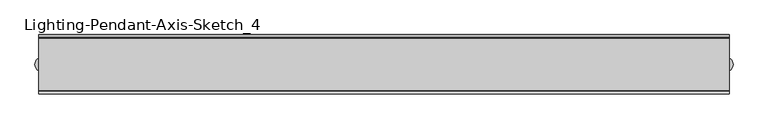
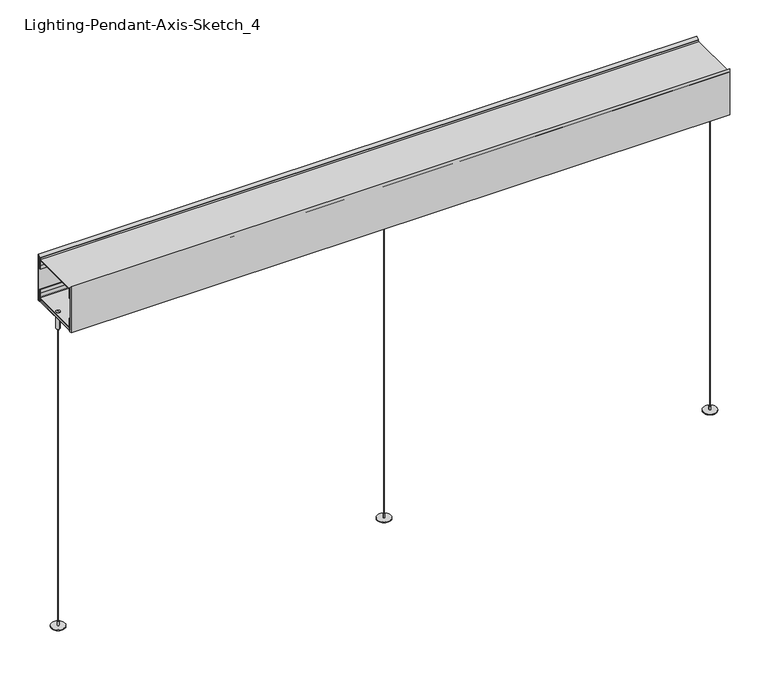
"""IFC4 building model written with IfcOpenShell, lengths in millimetres: light fixture geometry, Lighting-Pendant-Axis-Sketch_4 : SK4PDI-1400-1400-SO-SO-80-35."""

from ifc_helpers import new_model, si_unit, point, frame, frame_2d, origin, origin_with_axes, origin_2d, place, context, project, spatial, polyline, circle_curve, trimmed, segment, composite_curve, outline, extrude, source, transform, mapped, element, save
from ifc_brep_helpers import plane_surface, cylinder_surface, advanced_brep


def lighting_pendant_axis_sketch_4_b7173194(model_context):
    return source(origin(), model_context, "Body", "SolidModel", [
        extrude(outline(composite_curve([segment(trimmed(circle_curve(frame_2d((603.25, 0.0)), 0.396875), [point((602.853125, 0.0))], [point((603.646875, 0.0))], False, "CARTESIAN"), True, "CONTINUOUS"), segment(trimmed(circle_curve(frame_2d((603.25, 0.0)), 0.396875), [point((603.646875, 0.0))], [point((602.853125, 0.0))], False, "CARTESIAN"), True, "CONTINUOUS")], self_intersect=False)), frame((0.0, 0.0, 9.525), z_axis=(0.0, 0.0, 1.0), x_axis=(1.0, 0.0, 0.0)), (0.0, 0.0, 1.0), 600.075),
        advanced_brep(
        [(603.25, 1.2, 583.1008521), (603.25, -1.2, 583.1008521), (603.25, -2.95625, 583.1008521), (603.25, 2.95625, 583.1008521), (603.25, 1.2, 580.2508521), (603.25, -1.2, 580.2508521), (603.25, 0.0, 580.2508521), (603.25, 3.75, 616.0364681), (603.25, -3.75, 616.0364681), (603.25, 0.0, 616.0364681), (603.25, 3.75, 584.1008521), (603.25, -3.75, 584.1008521), (603.25, 2.95625, 584.1008521), (603.25, -2.95625, 584.1008521)],
        [
            (0, 1, circle_curve(frame((603.25, 0.0, 583.1008521), z_axis=(0.0, 0.0, 1.0), x_axis=(0.0, -1.0, 0.0)), 1.2)),
            (1, 2),
            (2, 3, circle_curve(frame((603.25, 0.0, 583.1008521), z_axis=(0.0, 0.0, -1.0), x_axis=(0.0, -1.0, 0.0)), 2.95625)),
            (3, 0),
            (1, 0, circle_curve(frame((603.25, 0.0, 583.1008521), z_axis=(0.0, 0.0, 1.0), x_axis=(0.0, -1.0, 0.0)), 1.2)),
            (3, 2, circle_curve(frame((603.25, 0.0, 583.1008521), z_axis=(0.0, 0.0, -1.0), x_axis=(0.0, -1.0, 0.0)), 2.95625)),
            (4, 5, circle_curve(frame((603.25, 0.0, 580.2508521), z_axis=(0.0, 0.0, 1.0), x_axis=(0.0, -1.0, 0.0)), 1.2)),
            (5, 1),
            (0, 4),
            (5, 4, circle_curve(frame((603.25, 0.0, 580.2508521), z_axis=(0.0, 0.0, 1.0), x_axis=(0.0, -1.0, 0.0)), 1.2)),
            (6, 5),
            (4, 6),
            (7, 8, circle_curve(frame((603.25, 0.0, 616.0364681), z_axis=(0.0, 0.0, 1.0), x_axis=(0.0, -1.0, 0.0)), 3.75)),
            (8, 9),
            (9, 7),
            (8, 7, circle_curve(frame((603.25, 0.0, 616.0364681), z_axis=(0.0, 0.0, 1.0), x_axis=(0.0, -1.0, 0.0)), 3.75)),
            (10, 11, circle_curve(frame((603.25, 0.0, 584.1008521), z_axis=(0.0, 0.0, 1.0), x_axis=(0.0, -1.0, 0.0)), 3.75)),
            (11, 8),
            (7, 10),
            (11, 10, circle_curve(frame((603.25, 0.0, 584.1008521), z_axis=(0.0, 0.0, 1.0), x_axis=(0.0, -1.0, 0.0)), 3.75)),
            (12, 13, circle_curve(frame((603.25, 0.0, 584.1008521), z_axis=(0.0, 0.0, 1.0), x_axis=(0.0, -1.0, 0.0)), 2.95625)),
            (13, 11),
            (10, 12),
            (13, 12, circle_curve(frame((603.25, 0.0, 584.1008521), z_axis=(0.0, 0.0, 1.0), x_axis=(0.0, -1.0, 0.0)), 2.95625)),
            (2, 13),
            (12, 3),
        ],
        [
            plane_surface(frame((603.25, 0.0, 583.1008521), z_axis=(0.0, 0.0, -1.0), x_axis=(0.0, -1.0, 0.0))),
            cylinder_surface(frame((603.25, 0.0, 2648.6067943), z_axis=(0.0, 0.0, -1.0), x_axis=(0.0, -1.0, 0.0)), 1.2),
            plane_surface(frame((603.25, 0.0, 580.2508521), z_axis=(0.0, 0.0, -1.0), x_axis=(0.0, -1.0, 0.0))),
            plane_surface(frame((603.25, 0.0, 616.0364681), z_axis=(0.0, 0.0, 1.0), x_axis=(0.0, -1.0, 0.0))),
            cylinder_surface(frame((603.25, 0.0, 2648.6067943), z_axis=(0.0, 0.0, -1.0), x_axis=(0.0, -1.0, 0.0)), 3.75),
            plane_surface(frame((603.25, 0.0, 584.1008521), z_axis=(0.0, 0.0, -1.0), x_axis=(0.0, -1.0, 0.0))),
            cylinder_surface(frame((603.25, 0.0, 2648.6067943), z_axis=(0.0, 0.0, -1.0), x_axis=(0.0, -1.0, 0.0)), 2.95625),
        ],
        [
            (0, [[1, 2, 3, 4]]),
            (0, [[5, -4, 6, -2]]),
            (1, [[7, 8, -1, 9]]),
            (1, [[10, -9, -5, -8]]),
            (2, [[11, -7, 12]]),
            (2, [[-12, -10, -11]]),
            (3, [[13, 14, 15]]),
            (3, [[16, -15, -14]]),
            (4, [[17, 18, -13, 19]]),
            (4, [[20, -19, -16, -18]]),
            (5, [[21, 22, -17, 23]]),
            (5, [[24, -23, -20, -22]]),
            (6, [[-3, 25, -21, 26]]),
            (6, [[-6, -26, -24, -25]]),
        ],
    ),
        extrude(outline(composite_curve([segment(trimmed(circle_curve(frame_2d((603.25, 0.0)), 12.7), [point((590.55, 0.0))], [point((615.95, 0.0))], False, "CARTESIAN"), True, "CONTINUOUS"), segment(trimmed(circle_curve(frame_2d((603.25, 0.0)), 12.7), [point((615.95, 0.0))], [point((590.55, 0.0))], False, "CARTESIAN"), True, "CONTINUOUS")], self_intersect=False)), origin_with_axes(), (0.0, 0.0, 1.0), 1.5875),
        extrude(outline(composite_curve([segment(trimmed(circle_curve(frame_2d((603.25, 0.0)), 1.5875), [point((601.6625, 0.0))], [point((604.8375, 0.0))], False, "CARTESIAN"), True, "CONTINUOUS"), segment(trimmed(circle_curve(frame_2d((603.25, 0.0)), 1.5875), [point((604.8375, 0.0))], [point((601.6625, 0.0))], False, "CARTESIAN"), True, "CONTINUOUS")], self_intersect=False)), frame((0.0, 0.0, 1.5875), z_axis=(0.0, 0.0, 1.0), x_axis=(1.0, 0.0, 0.0)), (0.0, 0.0, 1.0), 7.9375),
        extrude(outline(composite_curve([segment(trimmed(circle_curve(frame_2d((-603.25, 0.0)), 0.396875), [point((-603.646875, 0.0))], [point((-602.853125, 0.0))], False, "CARTESIAN"), True, "CONTINUOUS"), segment(trimmed(circle_curve(frame_2d((-603.25, 0.0)), 0.396875), [point((-602.853125, 0.0))], [point((-603.646875, 0.0))], False, "CARTESIAN"), True, "CONTINUOUS")], self_intersect=False)), frame((0.0, 0.0, 9.525), z_axis=(0.0, 0.0, 1.0), x_axis=(1.0, 0.0, 0.0)), (0.0, 0.0, 1.0), 600.075),
        advanced_brep(
        [(-603.25, 1.2, 583.1008521), (-603.25, -1.2, 583.1008521), (-603.25, -2.95625, 583.1008521), (-603.25, 2.95625, 583.1008521), (-603.25, 1.2, 580.2508521), (-603.25, -1.2, 580.2508521), (-603.25, 0.0, 580.2508521), (-603.25, 3.75, 616.0364681), (-603.25, -3.75, 616.0364681), (-603.25, 0.0, 616.0364681), (-603.25, 3.75, 584.1008521), (-603.25, -3.75, 584.1008521), (-603.25, 2.95625, 584.1008521), (-603.25, -2.95625, 584.1008521)],
        [
            (0, 1, circle_curve(frame((-603.25, 0.0, 583.1008521), z_axis=(0.0, 0.0, 1.0), x_axis=(0.0, -1.0, 0.0)), 1.2)),
            (1, 2),
            (2, 3, circle_curve(frame((-603.25, 0.0, 583.1008521), z_axis=(0.0, 0.0, -1.0), x_axis=(0.0, -1.0, 0.0)), 2.95625)),
            (3, 0),
            (1, 0, circle_curve(frame((-603.25, 0.0, 583.1008521), z_axis=(0.0, 0.0, 1.0), x_axis=(0.0, -1.0, 0.0)), 1.2)),
            (3, 2, circle_curve(frame((-603.25, 0.0, 583.1008521), z_axis=(0.0, 0.0, -1.0), x_axis=(0.0, -1.0, 0.0)), 2.95625)),
            (4, 5, circle_curve(frame((-603.25, 0.0, 580.2508521), z_axis=(0.0, 0.0, 1.0), x_axis=(0.0, -1.0, 0.0)), 1.2)),
            (5, 1),
            (0, 4),
            (5, 4, circle_curve(frame((-603.25, 0.0, 580.2508521), z_axis=(0.0, 0.0, 1.0), x_axis=(0.0, -1.0, 0.0)), 1.2)),
            (6, 5),
            (4, 6),
            (7, 8, circle_curve(frame((-603.25, 0.0, 616.0364681), z_axis=(0.0, 0.0, 1.0), x_axis=(0.0, -1.0, 0.0)), 3.75)),
            (8, 9),
            (9, 7),
            (8, 7, circle_curve(frame((-603.25, 0.0, 616.0364681), z_axis=(0.0, 0.0, 1.0), x_axis=(0.0, -1.0, 0.0)), 3.75)),
            (10, 11, circle_curve(frame((-603.25, 0.0, 584.1008521), z_axis=(0.0, 0.0, 1.0), x_axis=(0.0, -1.0, 0.0)), 3.75)),
            (11, 8),
            (7, 10),
            (11, 10, circle_curve(frame((-603.25, 0.0, 584.1008521), z_axis=(0.0, 0.0, 1.0), x_axis=(0.0, -1.0, 0.0)), 3.75)),
            (12, 13, circle_curve(frame((-603.25, 0.0, 584.1008521), z_axis=(0.0, 0.0, 1.0), x_axis=(0.0, -1.0, 0.0)), 2.95625)),
            (13, 11),
            (10, 12),
            (13, 12, circle_curve(frame((-603.25, 0.0, 584.1008521), z_axis=(0.0, 0.0, 1.0), x_axis=(0.0, -1.0, 0.0)), 2.95625)),
            (2, 13),
            (12, 3),
        ],
        [
            plane_surface(frame((-603.25, 0.0, 583.1008521), z_axis=(0.0, 0.0, -1.0), x_axis=(0.0, -1.0, 0.0))),
            cylinder_surface(frame((-603.25, 0.0, 2648.6067943), z_axis=(0.0, 0.0, -1.0), x_axis=(0.0, -1.0, 0.0)), 1.2),
            plane_surface(frame((-603.25, 0.0, 580.2508521), z_axis=(0.0, 0.0, -1.0), x_axis=(0.0, -1.0, 0.0))),
            plane_surface(frame((-603.25, 0.0, 616.0364681), z_axis=(0.0, 0.0, 1.0), x_axis=(0.0, -1.0, 0.0))),
            cylinder_surface(frame((-603.25, 0.0, 2648.6067943), z_axis=(0.0, 0.0, -1.0), x_axis=(0.0, -1.0, 0.0)), 3.75),
            plane_surface(frame((-603.25, 0.0, 584.1008521), z_axis=(0.0, 0.0, -1.0), x_axis=(0.0, -1.0, 0.0))),
            cylinder_surface(frame((-603.25, 0.0, 2648.6067943), z_axis=(0.0, 0.0, -1.0), x_axis=(0.0, -1.0, 0.0)), 2.95625),
        ],
        [
            (0, [[1, 2, 3, 4]]),
            (0, [[5, -4, 6, -2]]),
            (1, [[7, 8, -1, 9]]),
            (1, [[10, -9, -5, -8]]),
            (2, [[11, -7, 12]]),
            (2, [[-12, -10, -11]]),
            (3, [[13, 14, 15]]),
            (3, [[16, -15, -14]]),
            (4, [[17, 18, -13, 19]]),
            (4, [[20, -19, -16, -18]]),
            (5, [[21, 22, -17, 23]]),
            (5, [[24, -23, -20, -22]]),
            (6, [[-3, 25, -21, 26]]),
            (6, [[-6, -26, -24, -25]]),
        ],
    ),
        extrude(outline(composite_curve([segment(trimmed(circle_curve(frame_2d((-603.25, 0.0)), 12.7), [point((-615.95, 0.0))], [point((-590.55, 0.0))], False, "CARTESIAN"), True, "CONTINUOUS"), segment(trimmed(circle_curve(frame_2d((-603.25, 0.0)), 12.7), [point((-590.55, 0.0))], [point((-615.95, 0.0))], False, "CARTESIAN"), True, "CONTINUOUS")], self_intersect=False)), origin_with_axes(), (0.0, 0.0, 1.0), 1.5875),
        extrude(outline(composite_curve([segment(trimmed(circle_curve(frame_2d((-603.25, 0.0)), 1.5875), [point((-604.8375, 0.0))], [point((-601.6625, 0.0))], False, "CARTESIAN"), True, "CONTINUOUS"), segment(trimmed(circle_curve(frame_2d((-603.25, 0.0)), 1.5875), [point((-601.6625, 0.0))], [point((-604.8375, 0.0))], False, "CARTESIAN"), True, "CONTINUOUS")], self_intersect=False)), frame((0.0, 0.0, 1.5875), z_axis=(0.0, 0.0, 1.0), x_axis=(1.0, 0.0, 0.0)), (0.0, 0.0, 1.0), 7.9375),
        extrude(outline(composite_curve([segment(trimmed(circle_curve(origin_2d(), 0.396875), [point((-0.396875, 0.0))], [point((0.396875, 0.0))], False, "CARTESIAN"), True, "CONTINUOUS"), segment(trimmed(circle_curve(origin_2d(), 0.396875), [point((0.396875, 0.0))], [point((-0.396875, 0.0))], False, "CARTESIAN"), True, "CONTINUOUS")], self_intersect=False)), frame((0.0, 0.0, 9.525), z_axis=(0.0, 0.0, 1.0), x_axis=(1.0, 0.0, 0.0)), (0.0, 0.0, 1.0), 600.075),
        advanced_brep(
        [(0.0, 1.2, 583.1008521), (0.0, -1.2, 583.1008521), (0.0, -2.95625, 583.1008521), (0.0, 2.95625, 583.1008521), (0.0, 1.2, 580.2508521), (0.0, -1.2, 580.2508521), (0.0, 0.0, 580.2508521), (0.0, 3.75, 616.0364681), (0.0, -3.75, 616.0364681), (0.0, 0.0, 616.0364681), (0.0, 3.75, 584.1008521), (0.0, -3.75, 584.1008521), (0.0, 2.95625, 584.1008521), (0.0, -2.95625, 584.1008521)],
        [
            (0, 1, circle_curve(frame((0.0, 0.0, 583.1008521), z_axis=(0.0, 0.0, 1.0), x_axis=(0.0, -1.0, 0.0)), 1.2)),
            (1, 2),
            (2, 3, circle_curve(frame((0.0, 0.0, 583.1008521), z_axis=(0.0, 0.0, -1.0), x_axis=(0.0, -1.0, 0.0)), 2.95625)),
            (3, 0),
            (1, 0, circle_curve(frame((0.0, 0.0, 583.1008521), z_axis=(0.0, 0.0, 1.0), x_axis=(0.0, -1.0, 0.0)), 1.2)),
            (3, 2, circle_curve(frame((0.0, 0.0, 583.1008521), z_axis=(0.0, 0.0, -1.0), x_axis=(0.0, -1.0, 0.0)), 2.95625)),
            (4, 5, circle_curve(frame((0.0, 0.0, 580.2508521), z_axis=(0.0, 0.0, 1.0), x_axis=(0.0, -1.0, 0.0)), 1.2)),
            (5, 1),
            (0, 4),
            (5, 4, circle_curve(frame((0.0, 0.0, 580.2508521), z_axis=(0.0, 0.0, 1.0), x_axis=(0.0, -1.0, 0.0)), 1.2)),
            (6, 5),
            (4, 6),
            (7, 8, circle_curve(frame((0.0, 0.0, 616.0364681), z_axis=(0.0, 0.0, 1.0), x_axis=(0.0, -1.0, 0.0)), 3.75)),
            (8, 9),
            (9, 7),
            (8, 7, circle_curve(frame((0.0, 0.0, 616.0364681), z_axis=(0.0, 0.0, 1.0), x_axis=(0.0, -1.0, 0.0)), 3.75)),
            (10, 11, circle_curve(frame((0.0, 0.0, 584.1008521), z_axis=(0.0, 0.0, 1.0), x_axis=(0.0, -1.0, 0.0)), 3.75)),
            (11, 8),
            (7, 10),
            (11, 10, circle_curve(frame((0.0, 0.0, 584.1008521), z_axis=(0.0, 0.0, 1.0), x_axis=(0.0, -1.0, 0.0)), 3.75)),
            (12, 13, circle_curve(frame((0.0, 0.0, 584.1008521), z_axis=(0.0, 0.0, 1.0), x_axis=(0.0, -1.0, 0.0)), 2.95625)),
            (13, 11),
            (10, 12),
            (13, 12, circle_curve(frame((0.0, 0.0, 584.1008521), z_axis=(0.0, 0.0, 1.0), x_axis=(0.0, -1.0, 0.0)), 2.95625)),
            (2, 13),
            (12, 3),
        ],
        [
            plane_surface(frame((0.0, 0.0, 583.1008521), z_axis=(0.0, 0.0, -1.0), x_axis=(0.0, -1.0, 0.0))),
            cylinder_surface(frame((0.0, 0.0, 2648.6067943), z_axis=(0.0, 0.0, -1.0), x_axis=(0.0, -1.0, 0.0)), 1.2),
            plane_surface(frame((0.0, 0.0, 580.2508521), z_axis=(0.0, 0.0, -1.0), x_axis=(0.0, -1.0, 0.0))),
            plane_surface(frame((0.0, 0.0, 616.0364681), z_axis=(0.0, 0.0, 1.0), x_axis=(0.0, -1.0, 0.0))),
            cylinder_surface(frame((0.0, 0.0, 2648.6067943), z_axis=(0.0, 0.0, -1.0), x_axis=(0.0, -1.0, 0.0)), 3.75),
            plane_surface(frame((0.0, 0.0, 584.1008521), z_axis=(0.0, 0.0, -1.0), x_axis=(0.0, -1.0, 0.0))),
            cylinder_surface(frame((0.0, 0.0, 2648.6067943), z_axis=(0.0, 0.0, -1.0), x_axis=(0.0, -1.0, 0.0)), 2.95625),
        ],
        [
            (0, [[1, 2, 3, 4]]),
            (0, [[5, -4, 6, -2]]),
            (1, [[7, 8, -1, 9]]),
            (1, [[10, -9, -5, -8]]),
            (2, [[11, -7, 12]]),
            (2, [[-12, -10, -11]]),
            (3, [[13, 14, 15]]),
            (3, [[16, -15, -14]]),
            (4, [[17, 18, -13, 19]]),
            (4, [[20, -19, -16, -18]]),
            (5, [[21, 22, -17, 23]]),
            (5, [[24, -23, -20, -22]]),
            (6, [[-3, 25, -21, 26]]),
            (6, [[-6, -26, -24, -25]]),
        ],
    ),
        extrude(outline(composite_curve([segment(trimmed(circle_curve(origin_2d(), 12.7), [point((-12.7, 0.0))], [point((12.7, 0.0))], False, "CARTESIAN"), True, "CONTINUOUS"), segment(trimmed(circle_curve(origin_2d(), 12.7), [point((12.7, 0.0))], [point((-12.7, 0.0))], False, "CARTESIAN"), True, "CONTINUOUS")], self_intersect=False)), origin_with_axes(), (0.0, 0.0, 1.0), 1.5875),
        extrude(outline(composite_curve([segment(trimmed(circle_curve(origin_2d(), 1.5875), [point((-1.5875, 0.0))], [point((1.5875, 0.0))], False, "CARTESIAN"), True, "CONTINUOUS"), segment(trimmed(circle_curve(origin_2d(), 1.5875), [point((1.5875, 0.0))], [point((-1.5875, 0.0))], False, "CARTESIAN"), True, "CONTINUOUS")], self_intersect=False)), frame((0.0, 0.0, 1.5875), z_axis=(0.0, 0.0, 1.0), x_axis=(1.0, 0.0, 0.0)), (0.0, 0.0, 1.0), 7.9375),
        extrude(outline(polyline([(-609.6, -48.2599987), (-609.6, 48.2599977), (609.6, 48.2599977), (609.6, -48.2599987), (-609.6, -48.2599987)])), frame((0.0, 0.0, 689.9966516), z_axis=(0.0, 0.0, 1.0), x_axis=(1.0, 0.0, 0.0)), (0.0, 0.0, 1.0), 1.2700021),
        extrude(outline(polyline([(-609.6, -48.2599987), (-609.6, 48.2599977), (609.6, 48.2599977), (609.6, -48.2599987), (-609.6, -48.2599987)])), frame((0.0, 0.0, 614.5727648), z_axis=(0.0, 0.0, 1.0), x_axis=(1.0, 0.0, 0.0)), (0.0, 0.0, 1.0), 1.27),
        extrude(outline(polyline([(-52.387502, 608.1183333), (-52.387502, 698.5705614), (-47.9424983, 694.1255577), (-50.4824984, 694.1255577), (-50.4824984, 610.0233333), (-48.5749867, 610.0233333), (-48.5749867, 611.2933333), (-47.3074984, 611.2933333), (-47.3074984, 609.6312495), (-48.8649121, 608.1183333), (-52.387502, 608.1183333)])), frame((-609.6, 0.0, 0.0), z_axis=(1.0, 0.0, 0.0), x_axis=(0.0, 1.0, 0.0)), (0.0, 0.0, 1.0), 1219.2),
        extrude(outline(composite_curve([segment(polyline([(-47.7623797, 617.2181133), (-47.203689, 626.6227718), (-47.1663883, 632.7774986), (-46.1433321, 632.7774986), (-46.2138897, 626.1805556), (-46.8043106, 616.3008472), (-48.3048304, 616.3008472)]), True, "CONTINUOUS"), segment(trimmed(circle_curve(frame_2d((-48.3048304, 615.63155)), 0.6692972), [point((-48.3048304, 616.3008472))], [point((-48.9655543, 615.7383333))], True, "CARTESIAN"), True, "CONTINUOUS"), segment(polyline([(-48.9655543, 615.7383333), (-48.9062894, 614.1085157), (-46.5723819, 614.1933833), (-48.2952793, 612.3516667)]), True, "CONTINUOUS"), segment(trimmed(circle_curve(frame_2d((-48.7732449, 613.3920688)), 1.1449401), [point((-48.2952793, 612.3516667))], [point((-49.9180536, 613.3747222))], False, "CARTESIAN"), True, "CONTINUOUS"), segment(polyline([(-49.9180536, 613.3747222), (-49.9533335, 615.7030556)]), True, "CONTINUOUS"), segment(trimmed(circle_curve(frame_2d((-48.3340208, 615.7030556)), 1.6193127), [point((-49.9533335, 615.7030556))], [point((-47.7623797, 617.2181133))], False, "CARTESIAN"), True, "CONTINUOUS")], self_intersect=False)), frame((-609.6, 0.0, 0.0), z_axis=(1.0, 0.0, 0.0), x_axis=(0.0, 1.0, 0.0)), (0.0, 0.0, 1.0), 1219.2),
        extrude(outline(composite_curve([segment(polyline([(-47.1044268, 679.4782704), (-47.2795148, 688.3201765)]), True, "CONTINUOUS"), segment(trimmed(circle_curve(frame_2d((-47.6971346, 689.9992206)), 1.730201), [point((-47.2795148, 688.3201765))], [point((-49.4241668, 690.1038875))], False, "CARTESIAN"), True, "CONTINUOUS"), segment(polyline([(-49.4241668, 690.1038875), (-49.2830578, 692.4322236)]), True, "CONTINUOUS"), segment(trimmed(circle_curve(frame_2d((-48.1406669, 692.3629889)), 1.144487), [point((-49.2830578, 692.4322236))], [point((-47.6250008, 693.3847222))], False, "CARTESIAN"), True, "CONTINUOUS"), segment(polyline([(-47.6250008, 693.3847222), (-45.9802057, 691.5049613), (-48.3121579, 691.6345118), (-48.4283489, 689.5430339), (-46.305025, 689.3731705), (-46.1087781, 679.4627439), (-46.318589, 672.9236111), (-47.3427772, 672.9236111), (-47.1044268, 679.4782704)]), True, "CONTINUOUS")], self_intersect=False)), frame((-609.6, 0.0, 0.0), z_axis=(1.0, 0.0, 0.0), x_axis=(0.0, 1.0, 0.0)), (0.0, 0.0, 1.0), 1219.2),
        extrude(outline(polyline([(52.387502, 608.1183333), (48.8649121, 608.1183333), (47.3074984, 609.6312495), (47.3074984, 611.2933333), (48.5749867, 611.2933333), (48.5749867, 610.0233333), (50.4824984, 610.0233333), (50.4824984, 694.1255577), (47.9424983, 694.1255577), (52.387502, 698.5705614), (52.387502, 608.1183333)])), frame((-609.6, 0.0, 0.0), z_axis=(1.0, 0.0, 0.0), x_axis=(0.0, 1.0, 0.0)), (0.0, 0.0, 1.0), 1219.2),
        extrude(outline(composite_curve([segment(trimmed(circle_curve(frame_2d((48.3340208, 615.7030556)), 1.6193127), [point((47.7623797, 617.2181133))], [point((49.9533335, 615.7030556))], False, "CARTESIAN"), True, "CONTINUOUS"), segment(polyline([(49.9533335, 615.7030556), (49.9180536, 613.3747222)]), True, "CONTINUOUS"), segment(trimmed(circle_curve(frame_2d((48.7732449, 613.3920688)), 1.1449401), [point((49.9180536, 613.3747222))], [point((48.2952793, 612.3516667))], False, "CARTESIAN"), True, "CONTINUOUS"), segment(polyline([(48.2952793, 612.3516667), (46.6913645, 614.0661951), (48.9655543, 614.2021029), (48.9655543, 615.7383333)]), True, "CONTINUOUS"), segment(trimmed(circle_curve(frame_2d((48.3048304, 615.63155)), 0.6692972), [point((48.9655543, 615.7383333))], [point((48.3048304, 616.3008472))], True, "CARTESIAN"), True, "CONTINUOUS"), segment(polyline([(48.3048304, 616.3008472), (46.8043106, 616.3008472), (46.2138897, 626.1805556), (46.1433321, 632.7774986), (47.1663883, 632.7774986), (47.203689, 626.6227718), (47.7623797, 617.2181133)]), True, "CONTINUOUS")], self_intersect=False)), frame((-609.6, 0.0, 0.0), z_axis=(1.0, 0.0, 0.0), x_axis=(0.0, 1.0, 0.0)), (0.0, 0.0, 1.0), 1219.2),
        extrude(outline(composite_curve([segment(polyline([(47.1044268, 679.4782704), (47.3427772, 672.9236111), (46.318589, 672.9236111), (46.1087781, 679.4627439), (46.305025, 689.3731705), (48.4283489, 689.5430339), (48.3121579, 691.6345118), (45.9802057, 691.5049613), (47.6250008, 693.3847222)]), True, "CONTINUOUS"), segment(trimmed(circle_curve(frame_2d((48.1406669, 692.3629889)), 1.144487), [point((47.6250008, 693.3847222))], [point((49.2830578, 692.4322236))], False, "CARTESIAN"), True, "CONTINUOUS"), segment(polyline([(49.2830578, 692.4322236), (49.4241668, 690.1038875)]), True, "CONTINUOUS"), segment(trimmed(circle_curve(frame_2d((47.6971346, 689.9992206)), 1.730201), [point((49.4241668, 690.1038875))], [point((47.2795148, 688.3201765))], False, "CARTESIAN"), True, "CONTINUOUS"), segment(polyline([(47.2795148, 688.3201765), (47.1044268, 679.4782704)]), True, "CONTINUOUS")], self_intersect=False)), frame((-609.6, 0.0, 0.0), z_axis=(1.0, 0.0, 0.0), x_axis=(0.0, 1.0, 0.0)), (0.0, 0.0, 1.0), 1219.2),
        extrude(outline(polyline([(-609.6, -47.3074984), (-609.6, 47.3074984), (609.6, 47.3074984), (609.6, -47.3074984), (-609.6, -47.3074984)])), frame((0.0, 0.0, 609.6312495), z_axis=(0.0, 0.0, 1.0), x_axis=(1.0, 0.0, 0.0)), (0.0, 0.0, 1.0), 1.6620839),
    ])


if __name__ == "__main__":
    model = new_model("IFC4")
    model_context = context("Model", 3, world=origin())
    ifc_project = project(units=[si_unit("LENGTHUNIT", "METRE", prefix="MILLI")], contexts=[model_context])
    site = spatial("IfcSite", under=ifc_project)
    building = spatial("IfcBuilding", under=site)
    placement = place(None, origin())
    lighting_pendant_axis_sketch_4_shape = lighting_pendant_axis_sketch_4_b7173194(model_context)
    element("IfcLightFixture", 1, ObjectType="Lighting-Pendant-Axis-Sketch_4 : SK4PDI-1400-1400-SO-SO-80-35", at=placement, inside=building, context=model_context, shape_type="MappedRepresentation", body=[
        mapped(lighting_pendant_axis_sketch_4_shape, transform((0.0, 0.0, 0.0), x_axis=(1.0, 0.0, 0.0), y_axis=(0.0, 1.0, 0.0), z_axis=(0.0, 0.0, 1.0))),
    ])
    save(model, "model.ifc")
